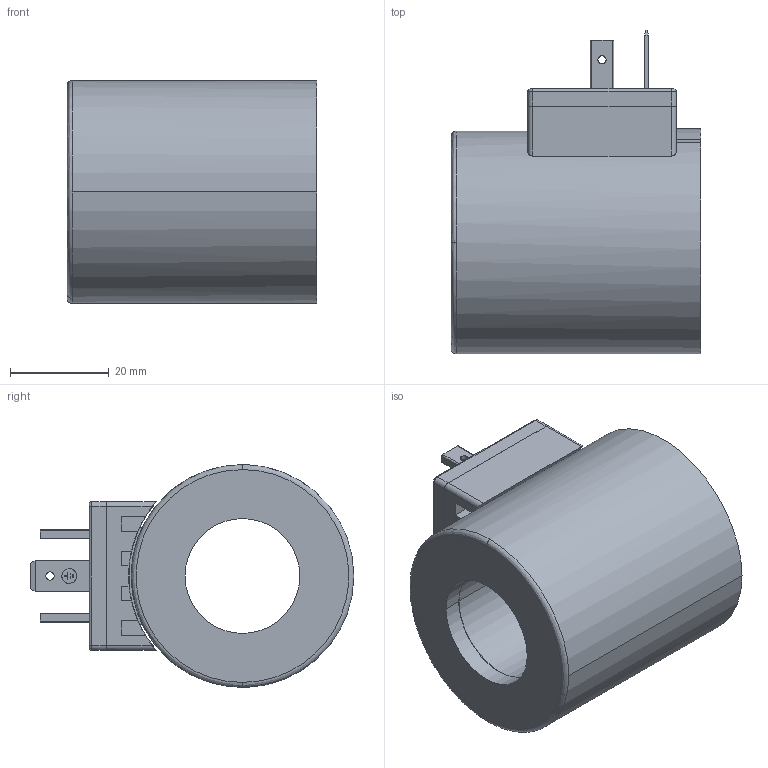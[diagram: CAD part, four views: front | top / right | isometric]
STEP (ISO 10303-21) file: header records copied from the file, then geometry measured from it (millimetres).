
FILE_DESCRIPTION (( 'STEP AP214' ), '1' );
FILE_NAME ('WDE45_23x50.STEP', '2017-03-02T12:41:58', ( '' ), ( '' ), 'SwSTEP 2.0', 'SolidWorks 2016', '' );
FILE_SCHEMA (( 'AUTOMOTIVE_DESIGN' ));
Length unit declared in the file: millimetre
Products named in the file (1): WDE45_23x50
Bounding box: 50.5 x 65.4 x 45 mm (x, y, z)
Volume: 66977.7 mm3; surface area: 19547.3 mm2
Topology: 2 solids, 2 shells, 179 faces, 491 edges, 325 vertices
Faces by surface type: plane 90, cylinder 70, bspline 16, cone 3
Entity records: 10049 total; most frequent: CARTESIAN_POINT 4183, ORIENTED_EDGE 982, DIRECTION 778, EDGE_CURVE 491, VERTEX_POINT 325, LINE 264, VECTOR 264, AXIS2_PLACEMENT_3D 257
